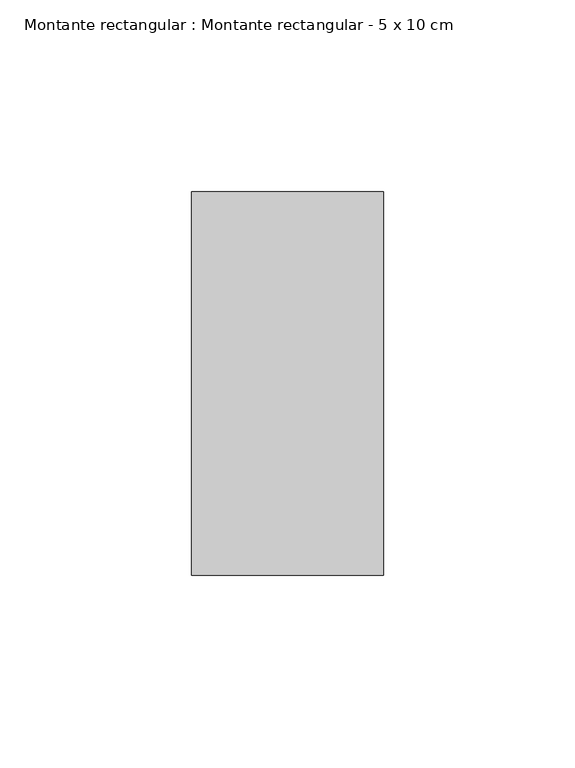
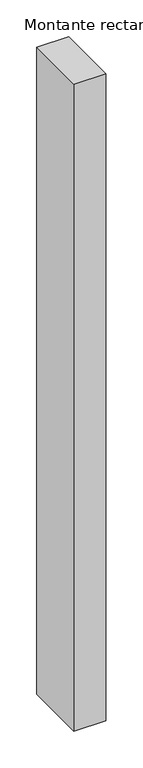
"""IFC4 building model written with IfcOpenShell, lengths in millimetres: member geometry, Montante rectangular : Montante rectangular - 5 x 10 cm."""

from ifc_helpers import new_model, si_unit, frame, origin, place, context, project, spatial, polyline, outline, extrude, source, transform, mapped, element, save


def montante_rectangular_montante_rectangular_5_x_10_cm_7cf15375(model_context):
    return source(origin(), model_context, "Body", "SweptSolid", [
        extrude(outline(polyline([(0.0, 50.0), (0.0, -50.0), (-50.0, -50.0), (-50.0, 50.0), (0.0, 50.0)])), frame((0.0, 0.0, -1070.0), z_axis=(0.0, 0.0, 1.0), x_axis=(1.0, 0.0, 0.0)), (0.0, 0.0, 1.0), 1070.0),
    ])


if __name__ == "__main__":
    model = new_model("IFC4")
    model_context = context("Model", 3, world=origin())
    ifc_project = project(units=[si_unit("LENGTHUNIT", "METRE", prefix="MILLI")], contexts=[model_context])
    site = spatial("IfcSite", under=ifc_project)
    building = spatial("IfcBuilding", under=site)
    placement = place(None, origin())
    montante_rectangular_montante_rectangular_5_x_10_cm_shape = montante_rectangular_montante_rectangular_5_x_10_cm_7cf15375(model_context)
    element("IfcMember", 1, ObjectType="Montante rectangular : Montante rectangular - 5 x 10 cm", at=placement, inside=building, context=model_context, shape_type="MappedRepresentation", body=[
        mapped(montante_rectangular_montante_rectangular_5_x_10_cm_shape, transform((0.0, 0.0, 0.0), x_axis=(1.0, 0.0, 0.0), y_axis=(0.0, 1.0, 0.0), z_axis=(0.0, 0.0, 1.0))),
    ])
    save(model, "model.ifc")
